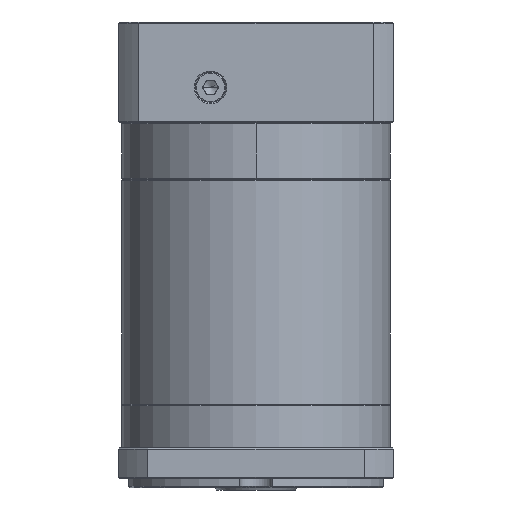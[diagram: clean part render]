
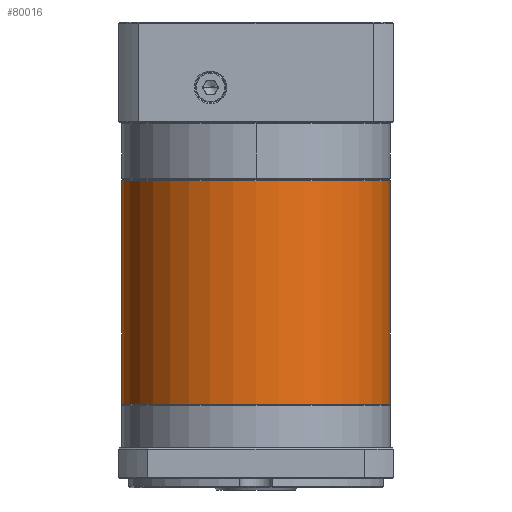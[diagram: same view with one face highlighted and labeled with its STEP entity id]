
A CAD part, front view. The second image highlights one B-rep face of the part: STEP entity #80016.
In plain terms, the highlighted cylindrical face has radius 57.5 mm (diameter 115 mm), a partial arc.
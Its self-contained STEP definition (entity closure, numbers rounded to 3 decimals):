
#6858 = CARTESIAN_POINT ( 'NONE',  ( -4.818, 61.973, -59.306 ) ) ;
#8103 = CYLINDRICAL_SURFACE ( 'NONE', #72624, 57.5 ) ;
#11147 = ORIENTED_EDGE ( 'NONE', *, *, #79041, .T. ) ;
#11196 = CARTESIAN_POINT ( 'NONE',  ( 110.182, 61.973, -59.306 ) ) ;
#11360 = CARTESIAN_POINT ( 'NONE',  ( 52.682, 61.973, -58.806 ) ) ;
#12715 = EDGE_CURVE ( 'NONE', #116782, #31430, #46864, .T. ) ;
#13286 = CARTESIAN_POINT ( 'NONE',  ( 52.682, 61.973, -59.306 ) ) ;
#16163 = ORIENTED_EDGE ( 'NONE', *, *, #62610, .T. ) ;
#16925 = DIRECTION ( 'NONE',  ( 0., 0., -1. ) ) ;
#17785 = CARTESIAN_POINT ( 'NONE',  ( -4.818, 61.973, -58.806 ) ) ;
#17834 = VECTOR ( 'NONE', #54632, 1000. ) ;
#25952 = ORIENTED_EDGE ( 'NONE', *, *, #12715, .F. ) ;
#27797 = DIRECTION ( 'NONE',  ( 0., 0., 1. ) ) ;
#28888 = VERTEX_POINT ( 'NONE', #50000 ) ;
#28997 = LINE ( 'NONE', #17785, #32061 ) ;
#29528 = FACE_OUTER_BOUND ( 'NONE', #98173, .T. ) ;
#31430 = VERTEX_POINT ( 'NONE', #65803 ) ;
#32061 = VECTOR ( 'NONE', #16925, 1000. ) ;
#32897 = DIRECTION ( 'NONE',  ( 0., 0., -1. ) ) ;
#33899 = ORIENTED_EDGE ( 'NONE', *, *, #83204, .T. ) ;
#37240 = CARTESIAN_POINT ( 'NONE',  ( 52.682, 61.973, -155.017 ) ) ;
#37263 = VERTEX_POINT ( 'NONE', #47155 ) ;
#38968 = AXIS2_PLACEMENT_3D ( 'NONE', #37240, #27797, #65854 ) ;
#42153 = AXIS2_PLACEMENT_3D ( 'NONE', #84300, #45013, #54817 ) ;
#42712 = DIRECTION ( 'NONE',  ( -1., 0., 0. ) ) ;
#45013 = DIRECTION ( 'NONE',  ( 0., 0., -1. ) ) ;
#46864 = LINE ( 'NONE', #64461, #17834 ) ;
#47155 = CARTESIAN_POINT ( 'NONE',  ( -4.818, 61.973, -155.017 ) ) ;
#50000 = CARTESIAN_POINT ( 'NONE',  ( 52.682, 4.473, -59.306 ) ) ;
#54632 = DIRECTION ( 'NONE',  ( 0., 0., -1. ) ) ;
#54817 = DIRECTION ( 'NONE',  ( -1., 0., 0. ) ) ;
#62610 = EDGE_CURVE ( 'NONE', #116782, #28888, #122458, .T. ) ;
#64461 = CARTESIAN_POINT ( 'NONE',  ( 110.182, 61.973, -58.806 ) ) ;
#64997 = ORIENTED_EDGE ( 'NONE', *, *, #74372, .T. ) ;
#65803 = CARTESIAN_POINT ( 'NONE',  ( 110.182, 61.973, -155.017 ) ) ;
#65854 = DIRECTION ( 'NONE',  ( -1., 0., 0. ) ) ;
#72532 = CIRCLE ( 'NONE', #42153, 57.5 ) ;
#72624 = AXIS2_PLACEMENT_3D ( 'NONE', #11360, #89891, #117788 ) ;
#74372 = EDGE_CURVE ( 'NONE', #37263, #31430, #100545, .T. ) ;
#79041 = EDGE_CURVE ( 'NONE', #28888, #87227, #72532, .T. ) ;
#80016 = ADVANCED_FACE ( 'NONE', ( #29528 ), #8103, .T. ) ;
#83204 = EDGE_CURVE ( 'NONE', #87227, #37263, #28997, .T. ) ;
#84300 = CARTESIAN_POINT ( 'NONE',  ( 52.682, 61.973, -59.306 ) ) ;
#87227 = VERTEX_POINT ( 'NONE', #6858 ) ;
#89891 = DIRECTION ( 'NONE',  ( 0., 0., -1. ) ) ;
#98173 = EDGE_LOOP ( 'NONE', ( #25952, #16163, #11147, #33899, #64997 ) ) ;
#100545 = CIRCLE ( 'NONE', #38968, 57.5 ) ;
#115561 = AXIS2_PLACEMENT_3D ( 'NONE', #13286, #32897, #42712 ) ;
#116782 = VERTEX_POINT ( 'NONE', #11196 ) ;
#117788 = DIRECTION ( 'NONE',  ( -1., 0., 0. ) ) ;
#122458 = CIRCLE ( 'NONE', #115561, 57.5 ) ;
